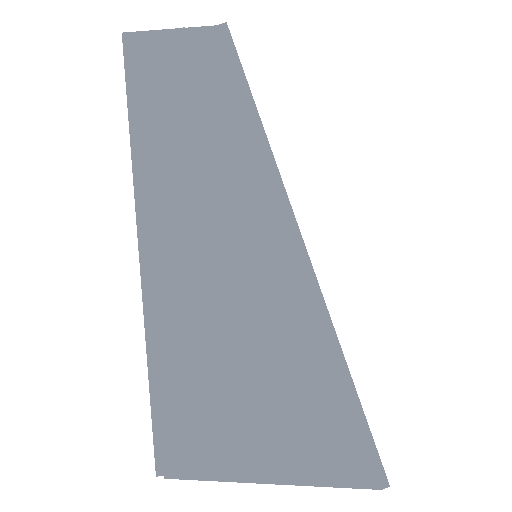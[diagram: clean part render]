
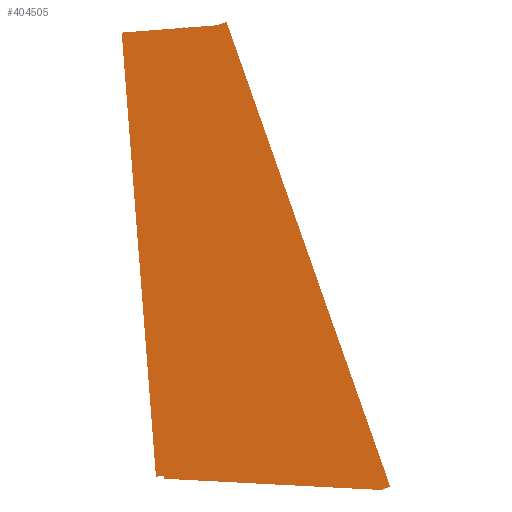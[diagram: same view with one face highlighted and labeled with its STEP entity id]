
A CAD part, front view. The second image highlights one B-rep face of the part: STEP entity #404505.
In plain terms, the highlighted planar face has unit normal (0, -1, 0).
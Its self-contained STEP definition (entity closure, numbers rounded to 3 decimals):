
#19467=LINE($,#644957,#55685);
#19470=LINE($,#644963,#55688);
#19473=LINE($,#644968,#55691);
#19477=LINE($,#644978,#55695);
#19481=LINE($,#644985,#55699);
#19485=LINE($,#644994,#55703);
#19487=LINE($,#644997,#55705);
#19488=LINE($,#644999,#55706);
#55685=VECTOR($,#498939,30.655);
#55688=VECTOR($,#498944,1569.077);
#55691=VECTOR($,#498949,30.655);
#55695=VECTOR($,#498957,1417.992);
#55699=VECTOR($,#498963,25.4);
#55703=VECTOR($,#498973,692.256);
#55705=VECTOR($,#498977,305.808);
#55706=VECTOR($,#498980,8.65);
#113715=FACE_OUTER_BOUND($,#142184,.T.);
#142184=EDGE_LOOP($,(#301897,#301898,#301899,#301900,#301901,#301902,#301903,
#301904));
#193406=VERTEX_POINT($,#644951);
#193408=VERTEX_POINT($,#644955);
#193410=VERTEX_POINT($,#644961);
#193411=VERTEX_POINT($,#644966);
#193412=VERTEX_POINT($,#644971);
#193415=VERTEX_POINT($,#644976);
#193417=VERTEX_POINT($,#644983);
#193419=VERTEX_POINT($,#644993);
#235105=EDGE_CURVE($,#193406,#193408,#19467,.T.);
#235108=EDGE_CURVE($,#193408,#193410,#19470,.T.);
#235111=EDGE_CURVE($,#193410,#193411,#19473,.T.);
#235115=EDGE_CURVE($,#193412,#193415,#19477,.T.);
#235119=EDGE_CURVE($,#193415,#193417,#19481,.T.);
#235123=EDGE_CURVE($,#193419,#193406,#19485,.T.);
#235125=EDGE_CURVE($,#193411,#193412,#19487,.T.);
#235126=EDGE_CURVE($,#193417,#193419,#19488,.T.);
#301897=ORIENTED_EDGE($,*,*,#235126,.T.);
#301898=ORIENTED_EDGE($,*,*,#235123,.T.);
#301899=ORIENTED_EDGE($,*,*,#235105,.T.);
#301900=ORIENTED_EDGE($,*,*,#235108,.T.);
#301901=ORIENTED_EDGE($,*,*,#235111,.T.);
#301902=ORIENTED_EDGE($,*,*,#235125,.T.);
#301903=ORIENTED_EDGE($,*,*,#235115,.T.);
#301904=ORIENTED_EDGE($,*,*,#235119,.T.);
#387008=PLANE($,#436635);
#404505=ADVANCED_FACE($,(#113715),#387008,.T.);
#436635=AXIS2_PLACEMENT_3D($,#645000,#498981,#498982);
#498939=DIRECTION($,(0.259,0.,-0.966));
#498944=DIRECTION($,(0.966,0.,0.259));
#498949=DIRECTION($,(-0.259,0.,0.966));
#498957=DIRECTION($,(-1.,0.,0.));
#498963=DIRECTION($,(0.,0.,-1.));
#498973=DIRECTION($,(-0.129,0.,-0.992));
#498977=DIRECTION($,(0.,0.,1.));
#498980=DIRECTION($,(-1.,0.,0.));
#498981=DIRECTION('center_axis',(0.,-1.,0.));
#498982=DIRECTION('ref_axis',(0.,0.,-1.));
#644951=CARTESIAN_POINT('',(-1515.612,0.,-686.515));
#644955=CARTESIAN_POINT('',(-1507.678,0.,-716.126));
#644957=CARTESIAN_POINT($,(-1507.678,0.,-716.126));
#644961=CARTESIAN_POINT('',(7.934,0.,-310.019));
#644963=CARTESIAN_POINT($,(7.934,0.,-310.019));
#644966=CARTESIAN_POINT('',(0.,0.,-280.408));
#644968=CARTESIAN_POINT($,(0.,0.,-280.408));
#644971=CARTESIAN_POINT('',(0.,0.,25.4));
#644976=CARTESIAN_POINT('',(-1417.992,0.,25.4));
#644978=CARTESIAN_POINT($,(-1417.992,0.,25.4));
#644983=CARTESIAN_POINT('',(-1417.992,0.,0.));
#644985=CARTESIAN_POINT($,(-1417.992,0.,0.));
#644993=CARTESIAN_POINT('',(-1426.642,0.,0.));
#644994=CARTESIAN_POINT($,(-1426.642,0.,0.));
#644997=CARTESIAN_POINT($,(0.,0.,25.4));
#644999=CARTESIAN_POINT($,(0.,0.,0.));
#645000=CARTESIAN_POINT('Origin',(-812.7,0.,-260.944));
